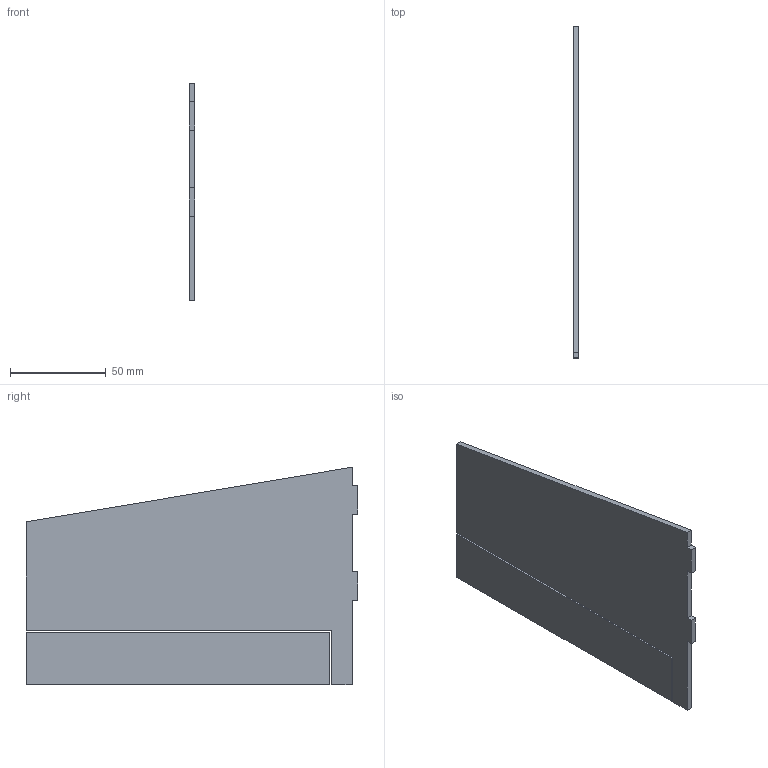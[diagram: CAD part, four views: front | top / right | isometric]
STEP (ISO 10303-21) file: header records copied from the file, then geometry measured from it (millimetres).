
FILE_DESCRIPTION(/* description */ (''),/* implementation_level */ '2;1');
FILE_NAME(/* name */ 'Vertical Stabilizer.step',/* time_stamp */ '2023-08-12T23:54:59+03:00',/* author */ (''),/* organization */ (''),/* preprocessor_version */ 'ST-DEVELOPER v20',/* originating_system */ 'Autodesk Translation Framework v12.9.0.99',/* authorisation */ '');
FILE_SCHEMA (('AUTOMOTIVE_DESIGN { 1 0 10303 214 3 1 1 }'));
Length unit declared in the file: millimetre
Products named in the file (1): Vertical Stabilizer (2)
Bounding box: 3 x 173 x 113.5 mm (x, y, z)
Volume: 50326.4 mm3; surface area: 36324.3 mm2
Topology: 2 solids, 2 shells, 22 faces, 54 edges, 36 vertices
Faces by surface type: plane 22
Entity records: 670 total; most frequent: CARTESIAN_POINT 113, ORIENTED_EDGE 108, DIRECTION 100, LINE 54, VECTOR 54, EDGE_CURVE 54, VERTEX_POINT 36, AXIS2_PLACEMENT_3D 23
